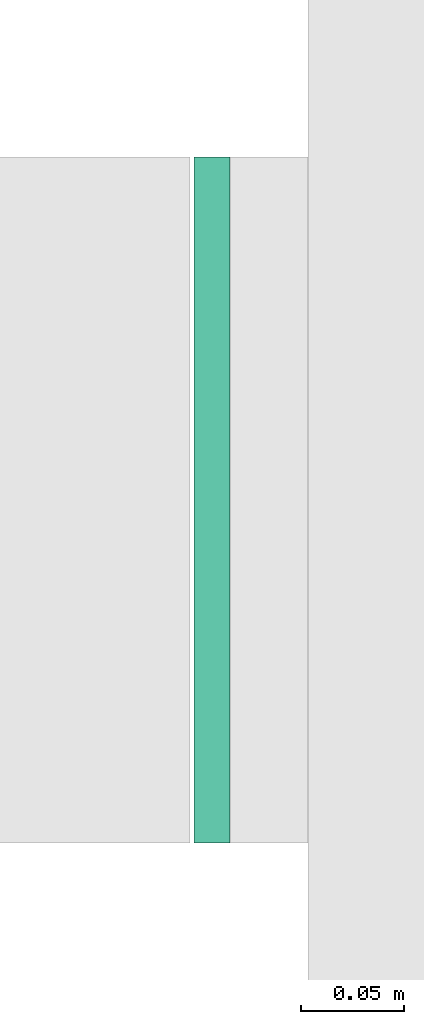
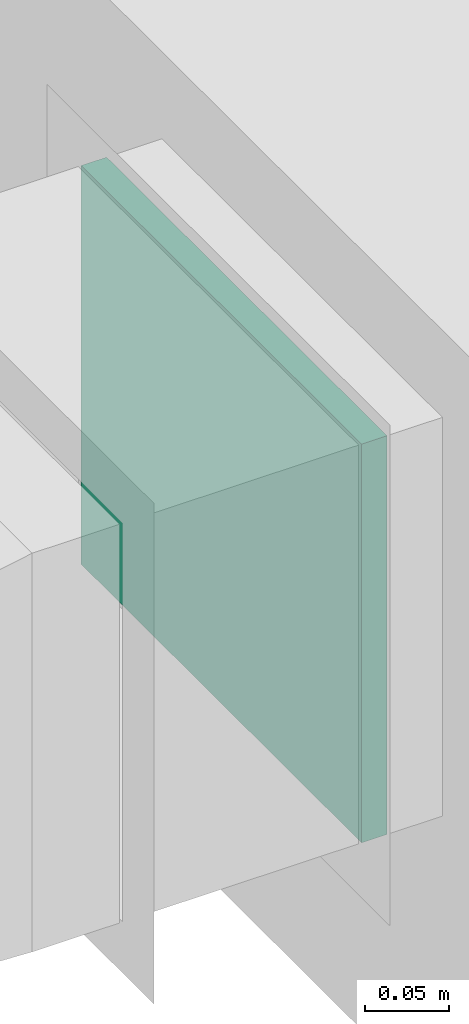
# One storey, part 7 of 15: 1 flow segment.
"""IFC2X3 building model written with IfcOpenShell, lengths in millimetres."""

from ifc_helpers import new_model, entity, si_unit, converted_unit, derived_unit, direction, frame, origin, origin_2d_with_axis, place, context, subcontext, project, spatial, rectangle, extrude, type_object, element, save


model = new_model("IFC2X3")

# Units and contexts
model_context = context("Model", 3, precision=0.01, world=origin(), true_north=direction((6.123233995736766e-17, 1.0)))
body_context = subcontext(model_context, "Body", "Model", "MODEL_VIEW")
ifc_project = project(units=[si_unit("LENGTHUNIT", "METRE", prefix="MILLI"), converted_unit("PLANEANGLEUNIT", "DEGREE", entity("IfcPlaneAngleMeasure", 0.017453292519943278), si_unit("PLANEANGLEUNIT", "RADIAN"), dimensions=[0, 0, 0, 0, 0, 0, 0]), si_unit("AREAUNIT", "SQUARE_METRE"), derived_unit("THERMALTRANSMITTANCEUNIT", [(si_unit("MASSUNIT", "GRAM", prefix="KILO"), 1), (si_unit("THERMODYNAMICTEMPERATUREUNIT", "KELVIN"), -1), (si_unit("TIMEUNIT", "SECOND"), -3)])], contexts=[model_context])

# Site, building, storey
site_placement = place(None, origin())
site = spatial("IfcSite", under=ifc_project, at=site_placement, Name="Default", CompositionType="ELEMENT")
building_placement = place(site_placement, origin())
building = spatial("IfcBuilding", under=site, at=building_placement, Name="Praça Pedro II, 1301 - Centro (Sul), Teresina - PI, 64001-100", CompositionType="ELEMENT")
storey_placement = place(building_placement, frame((0.0, 0.0, 3020.0)))
storey = spatial("IfcBuildingStorey", under=building, at=storey_placement, Name="1PAV", CompositionType="ELEMENT", Elevation=3020.0)

# Flow segment
duct_segment_type = type_object("IfcDuctSegmentType", Name="Duto retangular:Raios cotovelos / torneiras", PredefinedType="NOTDEFINED")
flow_segment_placement = place(storey_placement, origin())
element("IfcFlowSegment", 1, at=flow_segment_placement, inside=storey, type_object=duct_segment_type, Name="Duto retangular:Raios cotovelos / torneiras", ObjectType="Duto retangular:Raios cotovelos / torneiras", context=body_context, shape_type="SweptSolid", body=[
    extrude(rectangle(XDim=17.449694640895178, YDim=333.0000000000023, at=origin_2d_with_axis()), frame((12018.986926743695, -51563.17265781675, 1480.8972094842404), z_axis=(0.0, 0.0, 1.0), x_axis=(-1.0, 0.0, 0.0)), (0.0, 0.0, 1.0), 289.00000000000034),
])

save(model, "model.ifc")
